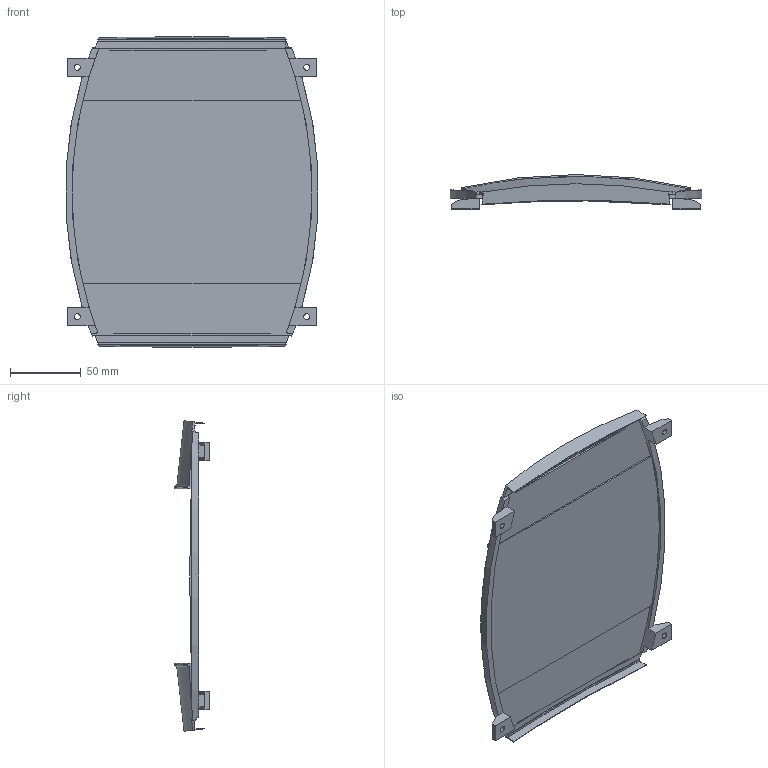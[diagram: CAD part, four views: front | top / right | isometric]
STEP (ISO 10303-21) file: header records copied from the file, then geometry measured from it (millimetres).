
FILE_DESCRIPTION (( 'STEP AP214' ), '1' );
FILE_NAME ('Tapa central PP104.STEP', '2017-11-24T15:23:38', ( 'aaa' ), ( '' ), 'SwSTEP 2.0', 'SolidWorks 2013', '' );
FILE_SCHEMA (( 'AUTOMOTIVE_DESIGN' ));
Length unit declared in the file: millimetre
Products named in the file (1): Tapa central PP104
Bounding box: 177.95 x 24.3 x 219.18 mm (x, y, z)
Volume: 202450.9 mm3; surface area: 86679.7 mm2
Topology: 1 solids, 1 shells, 168 faces, 452 edges, 288 vertices
Faces by surface type: plane 111, cylinder 39, bspline 14, torus 4
Entity records: 5690 total; most frequent: CARTESIAN_POINT 1602, ORIENTED_EDGE 904, DIRECTION 769, EDGE_CURVE 452, VERTEX_POINT 288, LINE 263, VECTOR 263, AXIS2_PLACEMENT_3D 253
